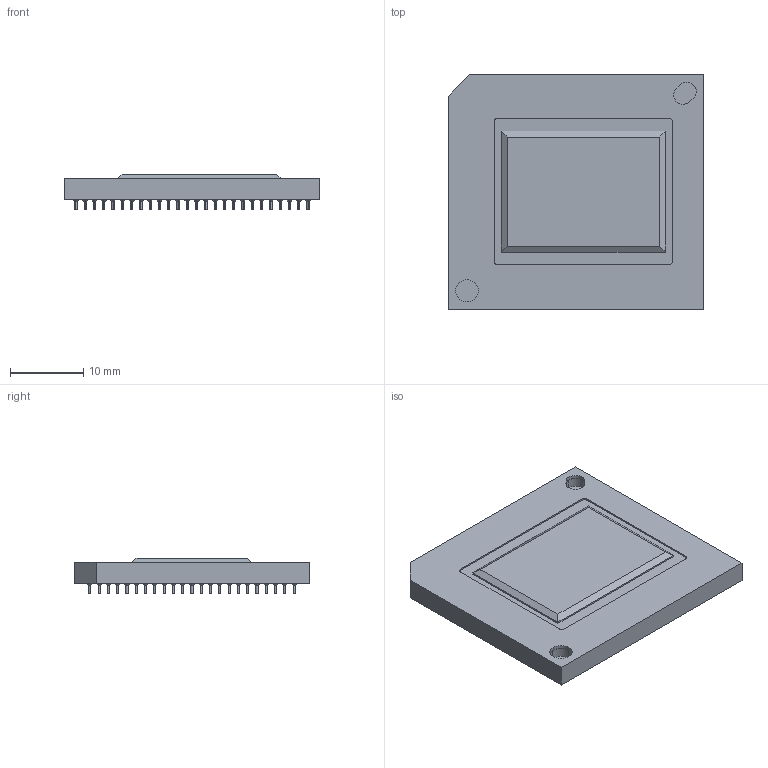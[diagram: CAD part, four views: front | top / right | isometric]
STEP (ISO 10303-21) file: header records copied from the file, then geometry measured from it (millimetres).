
FILE_DESCRIPTION (( 'STEP AP214' ), '1' );
FILE_NAME ('s600-78-4K-DMD.STEP', '2020-10-06T19:01:32', ( 'TI User' ), ( 'Texas Instruments, Inc' ), 'SwSTEP 2.0', 'SolidWorks 2017', '' );
FILE_SCHEMA (( 'AUTOMOTIVE_DESIGN' ));
Length unit declared in the file: millimetre
Products named in the file (4): s600-78-4K-DMD; s600-78-4K-Ceramic; s600-78-4K-Window; s600-SymbolizePad
Assembly tree (3 placements, depth 2):
  s600-78-4K-DMD
    s600-78-4K-Ceramic
    s600-78-4K-Window
    s600-SymbolizePad
Bounding box: 35 x 32.2 x 4.91 mm (x, y, z)
Volume: 3354 mm3; surface area: 4383.7 mm2
Topology: 3 solids, 3 shells, 1828 faces, 3677 edges, 2214 vertices
Faces by surface type: cylinder 714, cone 700, plane 414
Entity records: 67409 total; most frequent: DIRECTION 9473, CARTESIAN_POINT 7725, ORIENTED_EDGE 7354, AXIS2_PLACEMENT_3D 3962, EDGE_CURVE 3677, VERTEX_POINT 2214, EDGE_LOOP 2187, CIRCLE 2128
